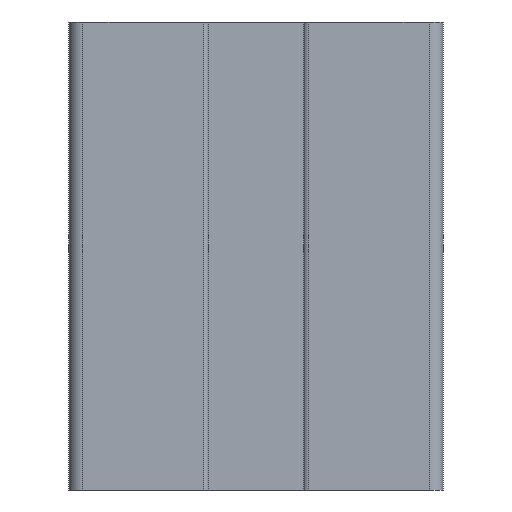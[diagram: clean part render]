
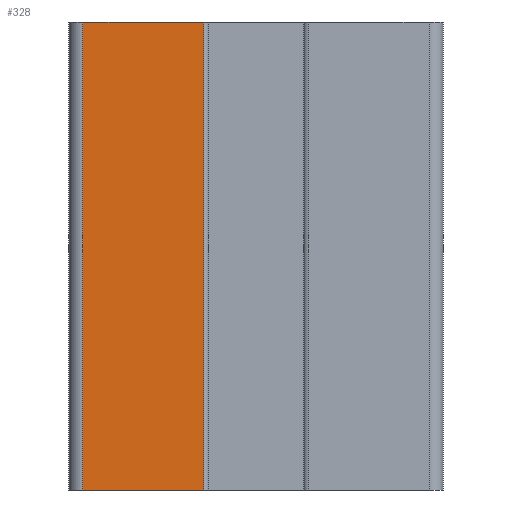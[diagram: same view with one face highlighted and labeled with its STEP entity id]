
A CAD part, left-side view. The second image highlights one B-rep face of the part: STEP entity #328.
In plain terms, the highlighted planar face has unit normal (-1, 0, 0).
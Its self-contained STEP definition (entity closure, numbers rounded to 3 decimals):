
#328=ADVANCED_FACE('',(#750),#751,.F.);
#750=FACE_OUTER_BOUND('',#1263,.T.);
#751=PLANE('',#1264);
#1263=EDGE_LOOP('',(#2271,#2272,#2273,#2274));
#1264=AXIS2_PLACEMENT_3D('',#2275,#2276,#2277);
#2271=ORIENTED_EDGE('',*,*,#3349,.T.);
#2272=ORIENTED_EDGE('',*,*,#3622,.F.);
#2273=ORIENTED_EDGE('',*,*,#3623,.F.);
#2274=ORIENTED_EDGE('',*,*,#3459,.T.);
#2275=CARTESIAN_POINT('',(0.,38.5,50.0));
#2276=DIRECTION('',(1.0,0.0,0.0));
#2277=DIRECTION('',(0.0,0.0,-1.0));
#3349=EDGE_CURVE('',#4138,#4136,#4139,.T.);
#3459=EDGE_CURVE('',#4324,#4138,#4325,.T.);
#3622=EDGE_CURVE('',#4558,#4136,#4559,.T.);
#3623=EDGE_CURVE('',#4324,#4558,#4560,.T.);
#4136=VERTEX_POINT('',#5198);
#4138=VERTEX_POINT('',#5200);
#4139=LINE('',#5201,#5202);
#4324=VERTEX_POINT('',#5449);
#4325=LINE('',#5450,#5451);
#4558=VERTEX_POINT('',#5771);
#4559=LINE('',#5772,#5773);
#4560=LINE('',#5774,#5775);
#5198=CARTESIAN_POINT('',(0.,25.6,0.0));
#5200=CARTESIAN_POINT('',(0.,38.5,0.0));
#5201=CARTESIAN_POINT('',(0.,38.5,0.0));
#5202=VECTOR('',#6417,1.0);
#5449=CARTESIAN_POINT('',(0.,38.5,50.0));
#5450=CARTESIAN_POINT('',(0.,38.5,50.0));
#5451=VECTOR('',#6573,1.0);
#5771=CARTESIAN_POINT('',(0.,25.6,50.0));
#5772=CARTESIAN_POINT('',(0.,25.6,50.0));
#5773=VECTOR('',#6748,1.0);
#5774=CARTESIAN_POINT('',(0.,38.5,50.0));
#5775=VECTOR('',#6749,1.0);
#6417=DIRECTION('',(0.0,-1.0,0.0));
#6573=DIRECTION('',(0.0,0.0,-1.0));
#6748=DIRECTION('',(0.0,0.0,-1.0));
#6749=DIRECTION('',(0.0,-1.0,0.0));
